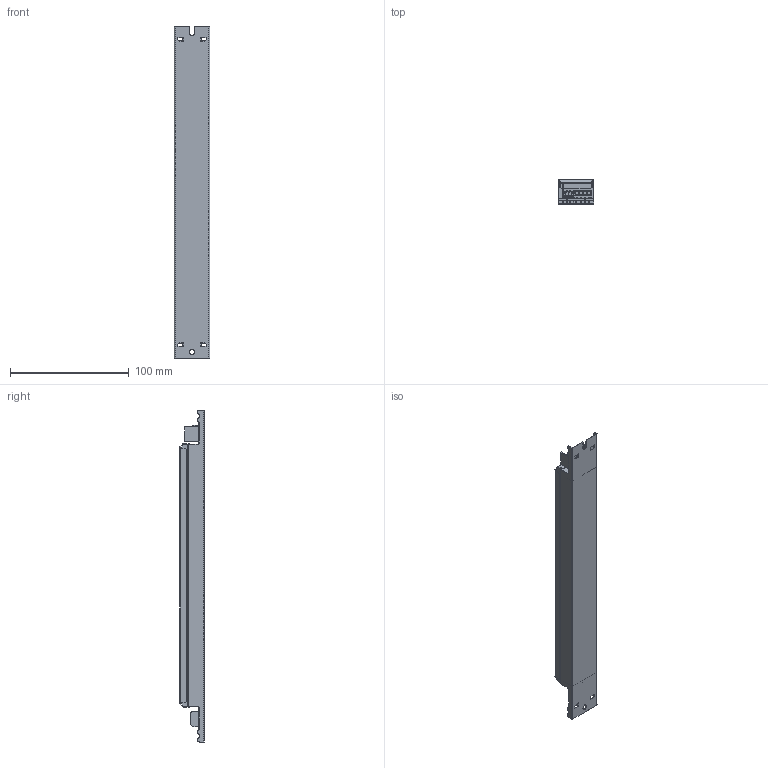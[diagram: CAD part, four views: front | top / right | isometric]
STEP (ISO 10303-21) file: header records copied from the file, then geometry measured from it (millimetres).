
FILE_DESCRIPTION (( 'STEP AP203' ), '1' );
FILE_NAME ('T5803.STEP', '2026-05-31T15:59:24', ( '' ), ( '' ), 'SwSTEP 2.0', 'SolidWorks 2026', '' );
FILE_SCHEMA (( 'CONFIG_CONTROL_DESIGN' ));
Length unit declared in the file: millimetre
Products named in the file (7): DXF_t; 744-304_3pole; 75960B; Liitturikotelo_280; 744-304_4pole; 2pole dippi; T5803
Assembly tree (5 placements, depth 2):
  DXF_t
  T5803
    Liitturikotelo_280
    2pole dippi
    75960B
    744-304_3pole
    744-304_4pole
Bounding box: 30 x 21 x 280 mm (x, y, z)
Volume: 139219.1 mm3; surface area: 35269.2 mm2
Topology: 7 solids, 7 shells, 1265 faces, 3525 edges, 2266 vertices
Faces by surface type: plane 880, cylinder 301, bspline 36, torus 30, cone 18
Full cylindrical faces by diameter (mm): 1.1 x7, 3 x7
Entity records: 42236 total; most frequent: CARTESIAN_POINT 9259, ORIENTED_EDGE 6992, DIRECTION 6382, EDGE_CURVE 3496, LINE 2644, VECTOR 2644, VERTEX_POINT 2258, AXIS2_PLACEMENT_3D 1869
